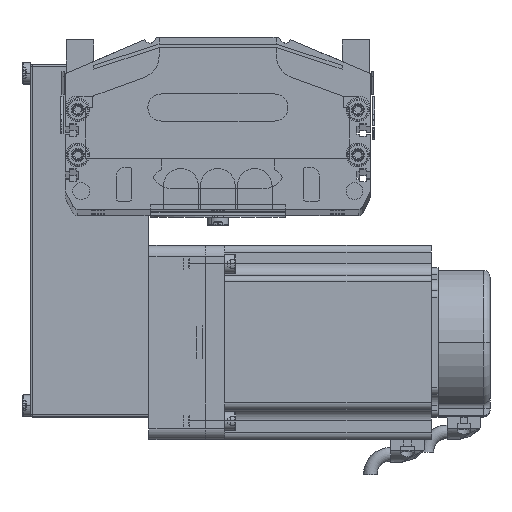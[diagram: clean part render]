
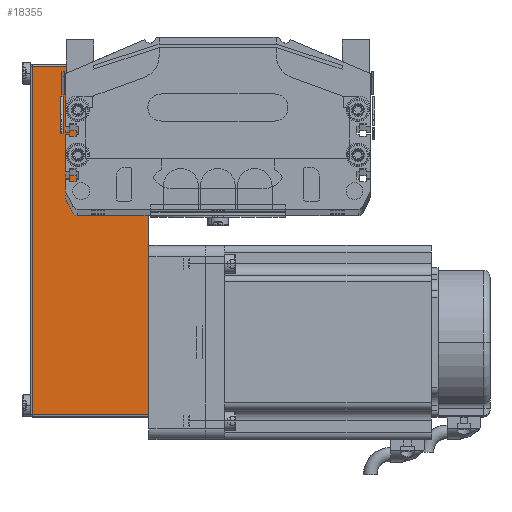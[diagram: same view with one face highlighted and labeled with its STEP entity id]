
A CAD part, top view. The second image highlights one B-rep face of the part: STEP entity #18355.
In plain terms, the highlighted planar face has unit normal (0, 0, 1) as drawn and (0, -1, 0) by its records, which use the part's own axes.
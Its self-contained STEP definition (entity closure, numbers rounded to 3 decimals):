
#15178 = VERTEX_POINT ( 'NONE', #55250 ) ;
#15182 = VERTEX_POINT ( 'NONE', #55161 ) ;
#15184 = EDGE_CURVE ( 'NONE', #15178, #15182, #55152, .T. ) ;
#18355 = ADVANCED_FACE ( 'NONE', ( #63381 ), #63623, .F. ) ;
#18356 = VERTEX_POINT ( 'NONE', #63339 ) ;
#18358 = VERTEX_POINT ( 'NONE', #63366 ) ;
#18359 = ORIENTED_EDGE ( 'NONE', *, *, #18369, .T. ) ;
#18360 = EDGE_CURVE ( 'NONE', #18358, #18356, #63369, .T. ) ;
#18367 = EDGE_LOOP ( 'NONE', ( #18673, #18359, #18654, #18686 ) ) ;
#18369 = EDGE_CURVE ( 'NONE', #15182, #18358, #63258, .T. ) ;
#18630 = EDGE_CURVE ( 'NONE', #18356, #15178, #64932, .T. ) ;
#18654 = ORIENTED_EDGE ( 'NONE', *, *, #18360, .T. ) ;
#18673 = ORIENTED_EDGE ( 'NONE', *, *, #15184, .T. ) ;
#18686 = ORIENTED_EDGE ( 'NONE', *, *, #18630, .T. ) ;
#55146 = DIRECTION ( 'NONE',  ( 1., 0., 0. ) ) ;
#55147 = VECTOR ( 'NONE', #55146, 1000. ) ;
#55151 = CARTESIAN_POINT ( 'NONE',  ( 32., -40., 0. ) ) ;
#55152 = LINE ( 'NONE', #55151, #55147 ) ;
#55161 = CARTESIAN_POINT ( 'NONE',  ( 31., -40., 0. ) ) ;
#55250 = CARTESIAN_POINT ( 'NONE',  ( -123.2, -40., 0. ) ) ;
#63251 = DIRECTION ( 'NONE',  ( 0., 0., 1. ) ) ;
#63253 = VECTOR ( 'NONE', #63251, 1000. ) ;
#63254 = CARTESIAN_POINT ( 'NONE',  ( 31., -40., 52.5 ) ) ;
#63258 = LINE ( 'NONE', #63254, #63253 ) ;
#63316 = DIRECTION ( 'NONE',  ( -1., 0., 0. ) ) ;
#63317 = VECTOR ( 'NONE', #63316, 1000. ) ;
#63331 = DIRECTION ( 'NONE',  ( -1., 0., 0. ) ) ;
#63332 = DIRECTION ( 'NONE',  ( 0., 1., 0. ) ) ;
#63333 = CARTESIAN_POINT ( 'NONE',  ( 32., -40., 52.5 ) ) ;
#63334 = AXIS2_PLACEMENT_3D ( 'NONE', #63333, #63332, #63331 ) ;
#63339 = CARTESIAN_POINT ( 'NONE',  ( -123.2, -40., 51.5 ) ) ;
#63366 = CARTESIAN_POINT ( 'NONE',  ( 31., -40., 51.5 ) ) ;
#63367 = CARTESIAN_POINT ( 'NONE',  ( 32., -40., 51.5 ) ) ;
#63369 = LINE ( 'NONE', #63367, #63317 ) ;
#63381 = FACE_OUTER_BOUND ( 'NONE', #18367, .T. ) ;
#63623 = PLANE ( 'NONE',  #63334 ) ;
#64929 = DIRECTION ( 'NONE',  ( 0., 0., -1. ) ) ;
#64932 = LINE ( 'NONE', #64972, #65062 ) ;
#64972 = CARTESIAN_POINT ( 'NONE',  ( -123.2, -40., 52.5 ) ) ;
#65062 = VECTOR ( 'NONE', #64929, 1000. ) ;
